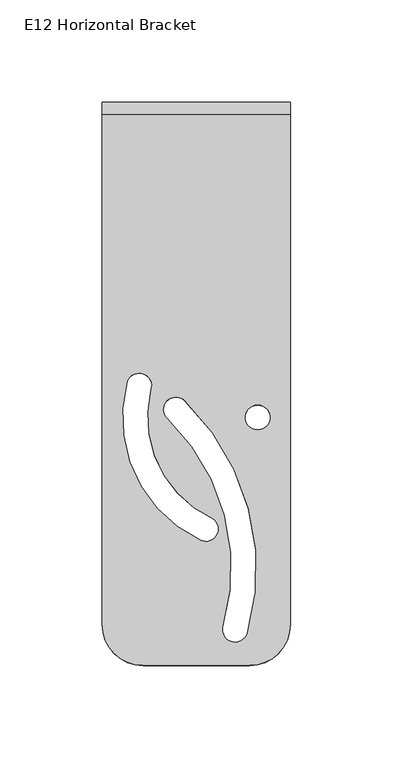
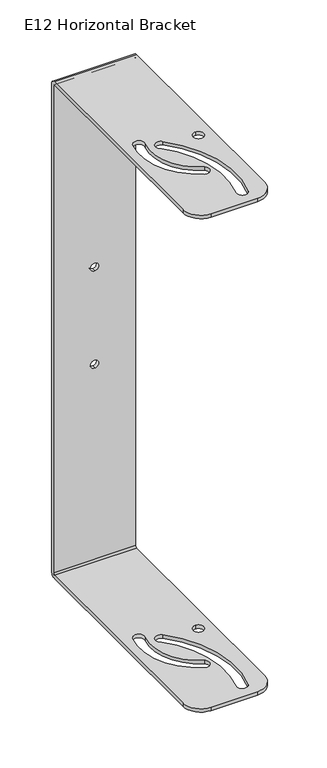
"""IFC4 building model written with IfcOpenShell, lengths in millimetres: proxy geometry, d&b E-Series E12 Horizontal Bracket : E12 Horizontal Bracket."""

from ifc_helpers import new_model, si_unit, frame, origin, place, context, project, spatial, polyline, circle_curve, source, transform, mapped, element, save
from ifc_brep_helpers import plane_surface, cylinder_surface, revolved_surface, advanced_brep


def e12_horizontal_bracket_7cf302ef(model_context):
    return source(origin(), model_context, "Body", "AdvancedBrep", [
        advanced_brep(
        [(45.9817027, 197.9690661, -288.0030066), (45.9817027, 195.9690661, -290.0030066), (45.9817027, -53.0309339, -290.0), (45.9817027, -53.0309339, -294.0), (45.9817027, 195.9690661, -294.0), (45.9817027, 201.9690661, -288.0), (45.9817027, 201.9703501, 288.0402283), (45.9817027, 195.9690661, 294.0), (45.9817027, -53.0309339, 294.0), (45.9817027, -53.0309339, 290.0), (45.9817027, 195.9690661, 290.0), (45.9817027, 197.9690661, 288.0030066), (-46.0182973, 197.9690661, -288.0030066), (-46.0182973, 197.9690661, 288.0030066), (-46.0182973, 195.9690661, 290.0030066), (-46.0182973, -53.0309339, 290.0), (-46.0182973, -53.0309339, 294.0), (-46.0182973, 195.9690661, 294.0), (-46.0182973, 201.9690661, 288.0), (-46.0182973, 201.9703501, -288.0), (-46.0182973, 195.9690661, -294.0), (-46.0182973, -53.0309339, -294.0), (-46.0182973, -53.0309339, -290.0), (-46.0182973, 195.9690661, -290.0), (0.0, 201.9703501, 61.9896337), (0.0, 201.9703501, 53.0103663), (0.0, 201.9703501, -53.0103663), (0.0, 201.9703501, -61.9896337), (0.0, 197.9690661, 53.0103663), (0.0, 197.9690661, 61.9896337), (0.0, 197.9690661, -61.9896337), (0.0, 197.9690661, -53.0103663), (-26.0182973, -73.0309339, 294.0), (25.9817027, -73.0309339, 294.0), (-14.1902572, 47.6455979, 294.0), (-5.7052789, 56.1305762, 294.0), (24.7060015, -57.3658677, 294.0), (13.1188182, -54.2732591, 294.0), (-33.636953, 65.6897539, 294.0), (-22.3223495, 61.571575, 294.0), (7.946898, -1.3324888, 294.0), (2.1938544, -11.8678391, 294.0), (30.0, 42.122613, 294.0), (30.0, 54.077387, 294.0), (25.9817027, -73.0309339, 290.0), (-26.0182973, -73.0309339, 290.0), (-14.1902572, 47.6455979, 290.0), (13.1188182, -54.2732591, 290.0), (24.7060015, -57.3658677, 290.0), (-5.7052789, 56.1305762, 290.0), (-33.636953, 65.6897539, 290.0), (2.1938544, -11.8678391, 290.0), (7.946898, -1.3324888, 290.0), (-22.3223495, 61.571575, 290.0), (30.0, 42.122613, 290.0), (30.0, 54.077387, 290.0), (-26.0182973, -73.0309339, -290.0), (25.9817027, -73.0309339, -290.0), (-14.1902572, 47.6455979, -290.0), (-5.7052789, 56.1305762, -290.0), (24.7060015, -57.3658677, -290.0), (13.1188182, -54.2732591, -290.0), (-33.636953, 65.6897539, -290.0), (-22.3223495, 61.571575, -290.0), (7.946898, -1.3324888, -290.0), (2.1938544, -11.8678391, -290.0), (30.0, 42.122613, -290.0), (30.0, 54.077387, -290.0), (25.9817027, -73.0309339, -294.0), (-26.0182973, -73.0309339, -294.0), (-14.1902572, 47.6455979, -294.0), (13.1188182, -54.2732591, -294.0), (24.7060015, -57.3658677, -294.0), (-5.7052789, 56.1305762, -294.0), (-33.636953, 65.6897539, -294.0), (2.1938544, -11.8678391, -294.0), (7.946898, -1.3324888, -294.0), (-22.3223495, 61.571575, -294.0), (30.0, 42.122613, -294.0), (30.0, 54.077387, -294.0)],
        [
            (0, 1, circle_curve(frame((45.9817027, 195.9690661, -288.0030066), z_axis=(-1.0, 0.0, 0.0), x_axis=(0.0, 1.0, 0.0)), 2.0)),
            (1, 2),
            (2, 3),
            (3, 4),
            (4, 5, circle_curve(frame((45.9817027, 195.9690661, -288.0), z_axis=(1.0, 0.0, 0.0), x_axis=(0.0, 1.0, 0.0)), 6.0)),
            (5, 6),
            (6, 7, circle_curve(frame((45.9817027, 195.9690661, 288.0), z_axis=(1.0, 0.0, 0.0), x_axis=(0.0, 1.0, 0.0)), 6.0)),
            (7, 8),
            (8, 9),
            (9, 10),
            (10, 11, circle_curve(frame((45.9817027, 195.9690661, 288.0030066), z_axis=(-1.0, 0.0, 0.0), x_axis=(0.0, 1.0, 0.0)), 2.0)),
            (11, 0),
            (12, 13),
            (13, 14, circle_curve(frame((-46.0182973, 195.9690661, 288.0030066), z_axis=(1.0, 0.0, 0.0), x_axis=(0.0, 1.0, 0.0)), 2.0)),
            (14, 15),
            (15, 16),
            (16, 17),
            (17, 18, circle_curve(frame((-46.0182973, 195.9690661, 288.0), z_axis=(-1.0, 0.0, 0.0), x_axis=(0.0, 1.0, 0.0)), 6.0)),
            (18, 19),
            (19, 20, circle_curve(frame((-46.0182973, 195.9690661, -288.0), z_axis=(-1.0, 0.0, 0.0), x_axis=(0.0, 1.0, 0.0)), 6.0)),
            (20, 21),
            (21, 22),
            (22, 23),
            (23, 12, circle_curve(frame((-46.0182973, 195.9690661, -288.0030066), z_axis=(1.0, 0.0, 0.0), x_axis=(0.0, 1.0, 0.0)), 2.0)),
            (5, 19),
            (18, 6),
            (24, 25, circle_curve(frame((0.0, 201.9703501, 57.5), z_axis=(0.0, -1.0, 0.0), x_axis=(0.0, 0.0, -1.0)), 4.4896337)),
            (25, 24, circle_curve(frame((0.0, 201.9703501, 57.5), z_axis=(0.0, -1.0, 0.0), x_axis=(0.0, 0.0, -1.0)), 4.4896337)),
            (26, 27, circle_curve(frame((0.0, 201.9703501, -57.5), z_axis=(0.0, -1.0, 0.0), x_axis=(0.0, 0.0, -1.0)), 4.4896337)),
            (27, 26, circle_curve(frame((0.0, 201.9703501, -57.5), z_axis=(0.0, -1.0, 0.0), x_axis=(0.0, 0.0, -1.0)), 4.4896337)),
            (11, 13),
            (12, 0),
            (28, 29, circle_curve(frame((0.0, 197.9690661, 57.5), z_axis=(0.0, 1.0, 0.0), x_axis=(0.0, 0.0, -1.0)), 4.4896337)),
            (29, 28, circle_curve(frame((0.0, 197.9690661, 57.5), z_axis=(0.0, 1.0, 0.0), x_axis=(0.0, 0.0, -1.0)), 4.4896337)),
            (30, 31, circle_curve(frame((0.0, 197.9690661, -57.5), z_axis=(0.0, 1.0, 0.0), x_axis=(0.0, 0.0, -1.0)), 4.4896337)),
            (31, 30, circle_curve(frame((0.0, 197.9690661, -57.5), z_axis=(0.0, 1.0, 0.0), x_axis=(0.0, 0.0, -1.0)), 4.4896337)),
            (16, 32, circle_curve(frame((-26.0182973, -53.0309339, 294.0), z_axis=(0.0, 0.0, 1.0), x_axis=(0.0, 1.0, 0.0)), 20.0)),
            (32, 33),
            (33, 8, circle_curve(frame((25.9817027, -53.0309339, 294.0), z_axis=(0.0, 0.0, 1.0), x_axis=(0.0, 1.0, 0.0)), 20.0)),
            (7, 17),
            (34, 35, circle_curve(frame((-9.9836293, 51.9239482, 294.0), z_axis=(0.0, 0.0, -1.0), x_axis=(0.0, 1.0, 0.0)), 6.0)),
            (35, 36, circle_curve(frame((-84.5730083, -25.8245292, 294.0), z_axis=(0.0, 0.0, -1.0), x_axis=(0.0, 1.0, 0.0)), 113.73987)),
            (36, 37, circle_curve(frame((18.9660317, -55.6186567, 294.0), z_axis=(0.0, 0.0, -1.0), x_axis=(0.0, 1.0, 0.0)), 6.0)),
            (37, 34, circle_curve(frame((-84.2439289, -25.7433777, 294.0), z_axis=(0.0, 0.0, 1.0), x_axis=(0.0, 1.0, 0.0)), 101.4566837)),
            (38, 39, circle_curve(frame((-27.9879054, 63.6079863, 294.0), z_axis=(0.0, 0.0, -1.0), x_axis=(0.0, 1.0, 0.0)), 6.0204231)),
            (39, 40, circle_curve(frame((30.187041, 48.1041692, 294.0), z_axis=(0.0, 0.0, 1.0), x_axis=(0.0, 1.0, 0.0)), 54.208921)),
            (40, 41, circle_curve(frame((4.6379817, -6.3640461, 294.0), z_axis=(0.0, 0.0, -1.0), x_axis=(0.0, 1.0, 0.0)), 6.022084)),
            (41, 38, circle_curve(frame((30.2083692, 48.1301056, 294.0), z_axis=(0.0, 0.0, -1.0), x_axis=(0.0, 1.0, 0.0)), 66.2160586)),
            (42, 43, circle_curve(frame((30.0, 48.1, 294.0), z_axis=(0.0, 0.0, -1.0), x_axis=(0.0, 1.0, 0.0)), 5.977387)),
            (43, 42, circle_curve(frame((30.0, 48.1, 294.0), z_axis=(0.0, 0.0, -1.0), x_axis=(0.0, 1.0, 0.0)), 5.977387)),
            (14, 10),
            (9, 44, circle_curve(frame((25.9817027, -53.0309339, 290.0), z_axis=(0.0, 0.0, -1.0), x_axis=(0.0, 1.0, 0.0)), 20.0)),
            (44, 45),
            (45, 15, circle_curve(frame((-26.0182973, -53.0309339, 290.0), z_axis=(0.0, 0.0, -1.0), x_axis=(0.0, 1.0, 0.0)), 20.0)),
            (46, 47, circle_curve(frame((-84.2439289, -25.7433777, 290.0), z_axis=(0.0, 0.0, -1.0), x_axis=(0.0, 1.0, 0.0)), 101.4566837)),
            (47, 48, circle_curve(frame((18.9660317, -55.6186567, 290.0), z_axis=(0.0, 0.0, 1.0), x_axis=(0.0, 1.0, 0.0)), 6.0)),
            (48, 49, circle_curve(frame((-84.5730083, -25.8245292, 290.0), z_axis=(0.0, 0.0, 1.0), x_axis=(0.0, 1.0, 0.0)), 113.73987)),
            (49, 46, circle_curve(frame((-9.9836293, 51.9239482, 290.0), z_axis=(0.0, 0.0, 1.0), x_axis=(0.0, 1.0, 0.0)), 6.0)),
            (50, 51, circle_curve(frame((30.2083692, 48.1301056, 290.0), z_axis=(0.0, 0.0, 1.0), x_axis=(0.0, 1.0, 0.0)), 66.2160586)),
            (51, 52, circle_curve(frame((4.6379817, -6.3640461, 290.0), z_axis=(0.0, 0.0, 1.0), x_axis=(0.0, 1.0, 0.0)), 6.022084)),
            (52, 53, circle_curve(frame((30.187041, 48.1041692, 290.0), z_axis=(0.0, 0.0, -1.0), x_axis=(0.0, 1.0, 0.0)), 54.208921)),
            (53, 50, circle_curve(frame((-27.9879054, 63.6079863, 290.0), z_axis=(0.0, 0.0, 1.0), x_axis=(0.0, 1.0, 0.0)), 6.0204231)),
            (54, 55, circle_curve(frame((30.0, 48.1, 290.0), z_axis=(0.0, 0.0, 1.0), x_axis=(0.0, 1.0, 0.0)), 5.977387)),
            (55, 54, circle_curve(frame((30.0, 48.1, 290.0), z_axis=(0.0, 0.0, 1.0), x_axis=(0.0, 1.0, 0.0)), 5.977387)),
            (45, 32),
            (44, 33),
            (34, 46),
            (49, 35),
            (48, 36),
            (47, 37),
            (38, 50),
            (53, 39),
            (52, 40),
            (51, 41),
            (42, 54),
            (55, 43),
            (22, 56, circle_curve(frame((-26.0182973, -53.0309339, -290.0), z_axis=(0.0, 0.0, 1.0), x_axis=(0.0, 1.0, 0.0)), 20.0)),
            (56, 57),
            (57, 2, circle_curve(frame((25.9817027, -53.0309339, -290.0), z_axis=(0.0, 0.0, 1.0), x_axis=(0.0, 1.0, 0.0)), 20.0)),
            (1, 23),
            (58, 59, circle_curve(frame((-9.9836293, 51.9239482, -290.0), z_axis=(0.0, 0.0, -1.0), x_axis=(0.0, 1.0, 0.0)), 6.0)),
            (59, 60, circle_curve(frame((-84.5730083, -25.8245292, -290.0), z_axis=(0.0, 0.0, -1.0), x_axis=(0.0, 1.0, 0.0)), 113.73987)),
            (60, 61, circle_curve(frame((18.9660317, -55.6186567, -290.0), z_axis=(0.0, 0.0, -1.0), x_axis=(0.0, 1.0, 0.0)), 6.0)),
            (61, 58, circle_curve(frame((-84.2439289, -25.7433777, -290.0), z_axis=(0.0, 0.0, 1.0), x_axis=(0.0, 1.0, 0.0)), 101.4566837)),
            (62, 63, circle_curve(frame((-27.9879054, 63.6079863, -290.0), z_axis=(0.0, 0.0, -1.0), x_axis=(0.0, 1.0, 0.0)), 6.0204231)),
            (63, 64, circle_curve(frame((30.187041, 48.1041692, -290.0), z_axis=(0.0, 0.0, 1.0), x_axis=(0.0, 1.0, 0.0)), 54.208921)),
            (64, 65, circle_curve(frame((4.6379817, -6.3640461, -290.0), z_axis=(0.0, 0.0, -1.0), x_axis=(0.0, 1.0, 0.0)), 6.022084)),
            (65, 62, circle_curve(frame((30.2083692, 48.1301056, -290.0), z_axis=(0.0, 0.0, -1.0), x_axis=(0.0, 1.0, 0.0)), 66.2160586)),
            (66, 67, circle_curve(frame((30.0, 48.1, -290.0), z_axis=(0.0, 0.0, -1.0), x_axis=(0.0, 1.0, 0.0)), 5.977387)),
            (67, 66, circle_curve(frame((30.0, 48.1, -290.0), z_axis=(0.0, 0.0, -1.0), x_axis=(0.0, 1.0, 0.0)), 5.977387)),
            (20, 4),
            (3, 68, circle_curve(frame((25.9817027, -53.0309339, -294.0), z_axis=(0.0, 0.0, -1.0), x_axis=(0.0, 1.0, 0.0)), 20.0)),
            (68, 69),
            (69, 21, circle_curve(frame((-26.0182973, -53.0309339, -294.0), z_axis=(0.0, 0.0, -1.0), x_axis=(0.0, 1.0, 0.0)), 20.0)),
            (70, 71, circle_curve(frame((-84.2439289, -25.7433777, -294.0), z_axis=(0.0, 0.0, -1.0), x_axis=(0.0, 1.0, 0.0)), 101.4566837)),
            (71, 72, circle_curve(frame((18.9660317, -55.6186567, -294.0), z_axis=(0.0, 0.0, 1.0), x_axis=(0.0, 1.0, 0.0)), 6.0)),
            (72, 73, circle_curve(frame((-84.5730083, -25.8245292, -294.0), z_axis=(0.0, 0.0, 1.0), x_axis=(0.0, 1.0, 0.0)), 113.73987)),
            (73, 70, circle_curve(frame((-9.9836293, 51.9239482, -294.0), z_axis=(0.0, 0.0, 1.0), x_axis=(0.0, 1.0, 0.0)), 6.0)),
            (74, 75, circle_curve(frame((30.2083692, 48.1301056, -294.0), z_axis=(0.0, 0.0, 1.0), x_axis=(0.0, 1.0, 0.0)), 66.2160586)),
            (75, 76, circle_curve(frame((4.6379817, -6.3640461, -294.0), z_axis=(0.0, 0.0, 1.0), x_axis=(0.0, 1.0, 0.0)), 6.022084)),
            (76, 77, circle_curve(frame((30.187041, 48.1041692, -294.0), z_axis=(0.0, 0.0, -1.0), x_axis=(0.0, 1.0, 0.0)), 54.208921)),
            (77, 74, circle_curve(frame((-27.9879054, 63.6079863, -294.0), z_axis=(0.0, 0.0, 1.0), x_axis=(0.0, 1.0, 0.0)), 6.0204231)),
            (78, 79, circle_curve(frame((30.0, 48.1, -294.0), z_axis=(0.0, 0.0, 1.0), x_axis=(0.0, 1.0, 0.0)), 5.977387)),
            (79, 78, circle_curve(frame((30.0, 48.1, -294.0), z_axis=(0.0, 0.0, 1.0), x_axis=(0.0, 1.0, 0.0)), 5.977387)),
            (69, 56),
            (68, 57),
            (58, 70),
            (73, 59),
            (72, 60),
            (71, 61),
            (62, 74),
            (77, 63),
            (76, 64),
            (75, 65),
            (66, 78),
            (79, 67),
            (24, 29),
            (28, 25),
            (26, 31),
            (30, 27),
        ],
        [
            plane_surface(frame((45.9817027, 197.9690661, -288.0030066), z_axis=(1.0, 0.0, 0.0), x_axis=(0.0, 0.0, -1.0))),
            plane_surface(frame((-46.0182973, 197.9690661, -288.0030066), z_axis=(-1.0, 0.0, 0.0), x_axis=(0.0, 0.0, 1.0))),
            plane_surface(frame((45.9817027, 201.9703501, -288.0), z_axis=(0.0, 1.0, 0.0), x_axis=(-1.0, 0.0, 0.0))),
            plane_surface(frame((45.9817027, 197.9690661, 288.0030066), z_axis=(0.0, -1.0, 0.0), x_axis=(-1.0, 0.0, 0.0))),
            plane_surface(frame((-26.0182973, -33.0309339, 294.0), z_axis=(0.0, 0.0, 1.0), x_axis=(-1.0, 0.0, 0.0))),
            plane_surface(frame((-26.0182973, -33.0309339, 290.0), z_axis=(0.0, 0.0, -1.0), x_axis=(1.0, 0.0, 0.0))),
            cylinder_surface(frame((-26.0182973, -53.0309339, 290.0), z_axis=(0.0, 0.0, 1.0), x_axis=(0.0, 1.0, 0.0)), 20.0),
            plane_surface(frame((-26.0182973, -73.0309339, 294.0), z_axis=(0.0, -1.0, 0.0), x_axis=(0.0, 0.0, -1.0))),
            cylinder_surface(frame((25.9817027, -53.0309339, 290.0), z_axis=(0.0, 0.0, 1.0), x_axis=(0.0, 1.0, 0.0)), 20.0),
            revolved_surface(polyline([(-9.9836293, 57.9239482, 290.0), (-9.9836293, 57.9239482, 294.0)]), (-9.9836293, 51.9239482, 0.0), (0.0, 0.0, -1.0)),
            revolved_surface(polyline([(-84.5730083, 87.9153408, 290.0), (-84.5730083, 87.9153408, 294.0)]), (-84.5730083, -25.8245292, 0.0), (0.0, 0.0, -1.0)),
            revolved_surface(polyline([(18.9660317, -49.6186567, 290.0), (18.9660317, -49.6186567, 294.0)]), (18.9660317, -55.6186567, 0.0), (0.0, 0.0, -1.0)),
            cylinder_surface(frame((-84.2439289, -25.7433777, 0.0), z_axis=(0.0, 0.0, 1.0), x_axis=(0.0, 1.0, 0.0)), 101.4566837),
            revolved_surface(polyline([(-27.9879054, 69.6284094, 290.0), (-27.9879054, 69.6284094, 294.0)]), (-27.9879054, 63.6079863, 0.0), (0.0, 0.0, -1.0)),
            cylinder_surface(frame((30.187041, 48.1041692, 0.0), z_axis=(0.0, 0.0, 1.0), x_axis=(0.0, 1.0, 0.0)), 54.208921),
            revolved_surface(polyline([(4.6379817, -0.34196209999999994, 290.0), (4.6379817, -0.34196209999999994, 294.0)]), (4.6379817, -6.3640461, 0.0), (0.0, 0.0, -1.0)),
            revolved_surface(polyline([(30.2083692, 114.3461642, 290.0), (30.2083692, 114.3461642, 294.0)]), (30.2083692, 48.1301056, 0.0), (0.0, 0.0, -1.0)),
            revolved_surface(polyline([(30.0, 54.077387, 290.0), (30.0, 54.077387, 294.0)]), (30.0, 48.1, 0.0), (0.0, 0.0, -1.0)),
            plane_surface(frame((-26.0182973, -33.0309339, -290.0), z_axis=(0.0, 0.0, 1.0), x_axis=(-1.0, 0.0, 0.0))),
            plane_surface(frame((-26.0182973, -33.0309339, -294.0), z_axis=(0.0, 0.0, -1.0), x_axis=(1.0, 0.0, 0.0))),
            cylinder_surface(frame((-26.0182973, -53.0309339, -294.0), z_axis=(0.0, 0.0, 1.0), x_axis=(0.0, 1.0, 0.0)), 20.0),
            plane_surface(frame((-26.0182973, -73.0309339, -290.0), z_axis=(0.0, -1.0, 0.0), x_axis=(0.0, 0.0, -1.0))),
            cylinder_surface(frame((25.9817027, -53.0309339, -294.0), z_axis=(0.0, 0.0, 1.0), x_axis=(0.0, 1.0, 0.0)), 20.0),
            revolved_surface(polyline([(-9.9836293, 57.9239482, -294.0), (-9.9836293, 57.9239482, -290.0)]), (-9.9836293, 51.9239482, 0.0), (0.0, 0.0, -1.0)),
            revolved_surface(polyline([(-84.5730083, 87.9153408, -294.0), (-84.5730083, 87.9153408, -290.0)]), (-84.5730083, -25.8245292, 0.0), (0.0, 0.0, -1.0)),
            revolved_surface(polyline([(18.9660317, -49.6186567, -294.0), (18.9660317, -49.6186567, -290.0)]), (18.9660317, -55.6186567, 0.0), (0.0, 0.0, -1.0)),
            revolved_surface(polyline([(-27.9879054, 69.6284094, -294.0), (-27.9879054, 69.6284094, -290.0)]), (-27.9879054, 63.6079863, 0.0), (0.0, 0.0, -1.0)),
            revolved_surface(polyline([(4.6379817, -0.34196209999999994, -294.0), (4.6379817, -0.34196209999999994, -290.0)]), (4.6379817, -6.3640461, 0.0), (0.0, 0.0, -1.0)),
            revolved_surface(polyline([(30.2083692, 114.3461642, -294.0), (30.2083692, 114.3461642, -290.0)]), (30.2083692, 48.1301056, 0.0), (0.0, 0.0, -1.0)),
            revolved_surface(polyline([(30.0, 54.077387, -294.0), (30.0, 54.077387, -290.0)]), (30.0, 48.1, 0.0), (0.0, 0.0, -1.0)),
            revolved_surface(polyline([(-46.0182973, 197.9690661, -288.0030066), (45.9817027, 197.9690661, -288.0030066)]), (-46.0182973, 195.9690661, -288.0030066), (-1.0, 0.0, 0.0)),
            cylinder_surface(frame((-46.0182973, 195.9690661, -288.0), z_axis=(1.0, 0.0, 0.0), x_axis=(0.0, 1.0, 0.0)), 6.0),
            cylinder_surface(frame((-46.0182973, 195.9690661, 288.0), z_axis=(1.0, 0.0, 0.0), x_axis=(0.0, 1.0, 0.0)), 6.0),
            revolved_surface(polyline([(-46.0182973, 197.9690661, 288.0030066), (45.9817027, 197.9690661, 288.0030066)]), (-46.0182973, 195.9690661, 288.0030066), (-1.0, 0.0, 0.0)),
            revolved_surface(polyline([(0.0, 197.9690661, 53.0103663), (0.0, 201.9703501, 53.0103663)]), (0.0, 205.0690661, 57.5), (0.0, -1.0, 0.0)),
            revolved_surface(polyline([(0.0, 197.9690661, -61.9896337), (0.0, 201.9703501, -61.9896337)]), (0.0, 96.2, -57.5), (0.0, -1.0, 0.0)),
        ],
        [
            (0, [[1, 2, 3, 4, 5, 6, 7, 8, 9, 10, 11, 12]]),
            (1, [[13, 14, 15, 16, 17, 18, 19, 20, 21, 22, 23, 24]]),
            (2, [[-6, 25, -19, 26], [27, 28], [29, 30]]),
            (3, [[-12, 31, -13, 32], [33, 34], [35, 36]]),
            (4, [[37, 38, 39, -8, 40, -17], [41, 42, 43, 44], [45, 46, 47, 48], [49, 50]]),
            (5, [[-15, 51, -10, 52, 53, 54], [55, 56, 57, 58], [59, 60, 61, 62], [63, 64]]),
            (6, [[-37, -16, -54, 65]]),
            (7, [[-38, -65, -53, 66]]),
            (8, [[-39, -66, -52, -9]]),
            (9, [[-41, 67, -58, 68]]),
            (10, [[-42, -68, -57, 69]]),
            (11, [[-43, -69, -56, 70]]),
            (12, [[-44, -70, -55, -67]]),
            (13, [[-45, 71, -62, 72]]),
            (14, [[-46, -72, -61, 73]]),
            (15, [[-47, -73, -60, 74]]),
            (16, [[-48, -74, -59, -71]]),
            (17, [[-49, 75, -64, 76]]),
            (17, [[-50, -76, -63, -75]]),
            (18, [[77, 78, 79, -2, 80, -23], [81, 82, 83, 84], [85, 86, 87, 88], [89, 90]]),
            (19, [[-21, 91, -4, 92, 93, 94], [95, 96, 97, 98], [99, 100, 101, 102], [103, 104]]),
            (20, [[-77, -22, -94, 105]]),
            (21, [[-78, -105, -93, 106]]),
            (22, [[-79, -106, -92, -3]]),
            (23, [[-81, 107, -98, 108]]),
            (24, [[-82, -108, -97, 109]]),
            (25, [[-83, -109, -96, 110]]),
            (12, [[-84, -110, -95, -107]]),
            (26, [[-85, 111, -102, 112]]),
            (14, [[-86, -112, -101, 113]]),
            (27, [[-87, -113, -100, 114]]),
            (28, [[-88, -114, -99, -111]]),
            (29, [[-89, 115, -104, 116]]),
            (29, [[-90, -116, -103, -115]]),
            (30, [[-1, -32, -24, -80]]),
            (31, [[-5, -91, -20, -25]]),
            (32, [[-7, -26, -18, -40]]),
            (33, [[-11, -51, -14, -31]]),
            (34, [[117, -33, 118, -27]]),
            (34, [[-117, -28, -118, -34]]),
            (35, [[119, -35, 120, -29]]),
            (35, [[-119, -30, -120, -36]]),
        ],
    ),
    ])


if __name__ == "__main__":
    model = new_model("IFC4")
    model_context = context("Model", 3, world=origin())
    ifc_project = project(units=[si_unit("LENGTHUNIT", "METRE", prefix="MILLI")], contexts=[model_context])
    site = spatial("IfcSite", under=ifc_project)
    building = spatial("IfcBuilding", under=site)
    placement = place(None, origin())
    e12_horizontal_bracket_shape = e12_horizontal_bracket_7cf302ef(model_context)
    element("IfcBuildingElementProxy", 1, Name="d&b E-Series E12 Horizontal Bracket : E12 Horizontal Bracket", ObjectType="d&b E-Series E12 Horizontal Bracket : E12 Horizontal Bracket", at=placement, inside=building, context=model_context, shape_type="MappedRepresentation", body=[
        mapped(e12_horizontal_bracket_shape, transform((0.0, 0.0, 0.0), x_axis=(1.0, 0.0, 0.0), y_axis=(0.0, 1.0, 0.0), z_axis=(0.0, 0.0, 1.0))),
    ])
    save(model, "model.ifc")
